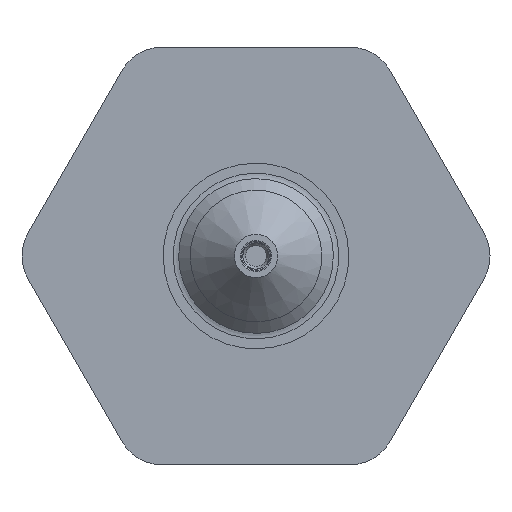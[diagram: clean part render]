
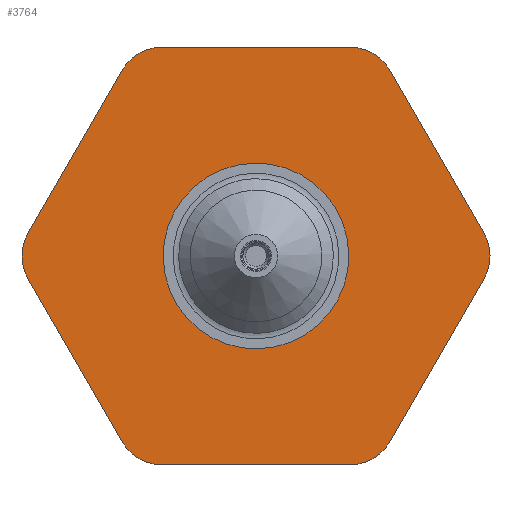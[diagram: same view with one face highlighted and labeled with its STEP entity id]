
A CAD part, left-side view. The second image highlights one B-rep face of the part: STEP entity #3764.
In plain terms, the highlighted planar face has unit normal (-1, 0, 0).
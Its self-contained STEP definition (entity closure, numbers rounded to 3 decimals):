
#3132=LINE('',#9633,#3164);
#3133=LINE('',#9637,#3165);
#3134=LINE('',#9641,#3166);
#3135=LINE('',#9645,#3167);
#3136=LINE('',#9649,#3168);
#3137=LINE('',#9653,#3169);
#3164=VECTOR('',#8860,1.);
#3165=VECTOR('',#8863,1.);
#3166=VECTOR('',#8866,1.);
#3167=VECTOR('',#8869,1.);
#3168=VECTOR('',#8872,1.);
#3169=VECTOR('',#8875,1.);
#3219=PLANE('',#8448);
#3400=FACE_OUTER_BOUND('',#4338,.T.);
#3764=ADVANCED_FACE('',(#4263,#3400),#3219,.T.);
#4263=FACE_BOUND('',#4337,.T.);
#4337=EDGE_LOOP('',(#4757));
#4338=EDGE_LOOP('',(#4758,#4759,#4760,#4761,#4762,#4763,#4764,#4765,#4766,
#4767,#4768,#4769));
#4757=ORIENTED_EDGE('',*,*,#7097,.T.);
#4758=ORIENTED_EDGE('',*,*,#7103,.F.);
#4759=ORIENTED_EDGE('',*,*,#7104,.T.);
#4760=ORIENTED_EDGE('',*,*,#7105,.F.);
#4761=ORIENTED_EDGE('',*,*,#7106,.T.);
#4762=ORIENTED_EDGE('',*,*,#7107,.F.);
#4763=ORIENTED_EDGE('',*,*,#7108,.T.);
#4764=ORIENTED_EDGE('',*,*,#7109,.F.);
#4765=ORIENTED_EDGE('',*,*,#7110,.T.);
#4766=ORIENTED_EDGE('',*,*,#7111,.F.);
#4767=ORIENTED_EDGE('',*,*,#7112,.T.);
#4768=ORIENTED_EDGE('',*,*,#7113,.F.);
#4769=ORIENTED_EDGE('',*,*,#7114,.T.);
#6528=VERTEX_POINT('',#9612);
#6534=VERTEX_POINT('',#9631);
#6535=VERTEX_POINT('',#9632);
#6536=VERTEX_POINT('',#9634);
#6537=VERTEX_POINT('',#9636);
#6538=VERTEX_POINT('',#9638);
#6539=VERTEX_POINT('',#9640);
#6540=VERTEX_POINT('',#9642);
#6541=VERTEX_POINT('',#9644);
#6542=VERTEX_POINT('',#9646);
#6543=VERTEX_POINT('',#9648);
#6544=VERTEX_POINT('',#9650);
#6545=VERTEX_POINT('',#9652);
#7097=EDGE_CURVE('',#6528,#6528,#7994,.T.);
#7103=EDGE_CURVE('',#6534,#6535,#8000,.T.);
#7104=EDGE_CURVE('',#6534,#6536,#3132,.T.);
#7105=EDGE_CURVE('',#6537,#6536,#8001,.T.);
#7106=EDGE_CURVE('',#6537,#6538,#3133,.T.);
#7107=EDGE_CURVE('',#6539,#6538,#8002,.T.);
#7108=EDGE_CURVE('',#6539,#6540,#3134,.T.);
#7109=EDGE_CURVE('',#6541,#6540,#8003,.T.);
#7110=EDGE_CURVE('',#6541,#6542,#3135,.T.);
#7111=EDGE_CURVE('',#6543,#6542,#8004,.T.);
#7112=EDGE_CURVE('',#6543,#6544,#3136,.T.);
#7113=EDGE_CURVE('',#6545,#6544,#8005,.T.);
#7114=EDGE_CURVE('',#6545,#6535,#3137,.T.);
#7994=CIRCLE('',#8429,6.);
#8000=CIRCLE('',#8442,3.);
#8001=CIRCLE('',#8443,3.);
#8002=CIRCLE('',#8444,3.);
#8003=CIRCLE('',#8445,3.);
#8004=CIRCLE('',#8446,3.);
#8005=CIRCLE('',#8447,3.);
#8429=AXIS2_PLACEMENT_3D('',#9611,#8832,#8833);
#8442=AXIS2_PLACEMENT_3D('',#9630,#8858,#8859);
#8443=AXIS2_PLACEMENT_3D('',#9635,#8861,#8862);
#8444=AXIS2_PLACEMENT_3D('',#9639,#8864,#8865);
#8445=AXIS2_PLACEMENT_3D('',#9643,#8867,#8868);
#8446=AXIS2_PLACEMENT_3D('',#9647,#8870,#8871);
#8447=AXIS2_PLACEMENT_3D('',#9651,#8873,#8874);
#8448=AXIS2_PLACEMENT_3D('',#9654,#8876,#8877);
#8832=DIRECTION('',(1.,0.,0.));
#8833=DIRECTION('',(0.,-0.525,-0.851));
#8858=DIRECTION('',(1.,0.,0.));
#8859=DIRECTION('',(0.,-1.,0.));
#8860=DIRECTION('',(0.,0.5,0.866));
#8861=DIRECTION('',(1.,0.,0.));
#8862=DIRECTION('',(0.,-1.,0.));
#8863=DIRECTION('',(0.,1.,0.));
#8864=DIRECTION('',(1.,0.,0.));
#8865=DIRECTION('',(0.,-1.,0.));
#8866=DIRECTION('',(0.,0.5,-0.866));
#8867=DIRECTION('',(1.,0.,0.));
#8868=DIRECTION('',(0.,-1.,0.));
#8869=DIRECTION('',(0.,-0.5,-0.866));
#8870=DIRECTION('',(1.,0.,0.));
#8871=DIRECTION('',(0.,-1.,0.));
#8872=DIRECTION('',(0.,-1.,0.));
#8873=DIRECTION('',(1.,0.,0.));
#8874=DIRECTION('',(0.,-1.,0.));
#8875=DIRECTION('',(0.,-0.5,0.866));
#8876=DIRECTION('',(-1.,0.,0.));
#8877=DIRECTION('',(0.,0.,1.));
#9611=CARTESIAN_POINT('',(85.5,0.,0.));
#9612=CARTESIAN_POINT('',(85.5,-3.149,-5.107));
#9630=CARTESIAN_POINT('',(85.5,-12.124,0.));
#9631=CARTESIAN_POINT('',(85.5,-14.722,1.5));
#9632=CARTESIAN_POINT('',(85.5,-14.722,-1.5));
#9633=CARTESIAN_POINT('',(85.5,-14.722,1.5));
#9634=CARTESIAN_POINT('',(85.5,-8.66,12.));
#9635=CARTESIAN_POINT('',(85.5,-6.062,10.5));
#9636=CARTESIAN_POINT('',(85.5,-6.062,13.5));
#9637=CARTESIAN_POINT('',(85.5,-6.062,13.5));
#9638=CARTESIAN_POINT('',(85.5,6.062,13.5));
#9639=CARTESIAN_POINT('',(85.5,6.062,10.5));
#9640=CARTESIAN_POINT('',(85.5,8.66,12.));
#9641=CARTESIAN_POINT('',(85.5,8.66,12.));
#9642=CARTESIAN_POINT('',(85.5,14.722,1.5));
#9643=CARTESIAN_POINT('',(85.5,12.124,0.));
#9644=CARTESIAN_POINT('',(85.5,14.722,-1.5));
#9645=CARTESIAN_POINT('',(85.5,14.722,-1.5));
#9646=CARTESIAN_POINT('',(85.5,8.66,-12.));
#9647=CARTESIAN_POINT('',(85.5,6.062,-10.5));
#9648=CARTESIAN_POINT('',(85.5,6.062,-13.5));
#9649=CARTESIAN_POINT('',(85.5,6.062,-13.5));
#9650=CARTESIAN_POINT('',(85.5,-6.062,-13.5));
#9651=CARTESIAN_POINT('',(85.5,-6.062,-10.5));
#9652=CARTESIAN_POINT('',(85.5,-8.66,-12.));
#9653=CARTESIAN_POINT('',(85.5,-8.66,-12.));
#9654=CARTESIAN_POINT('',(85.5,0.,0.));
